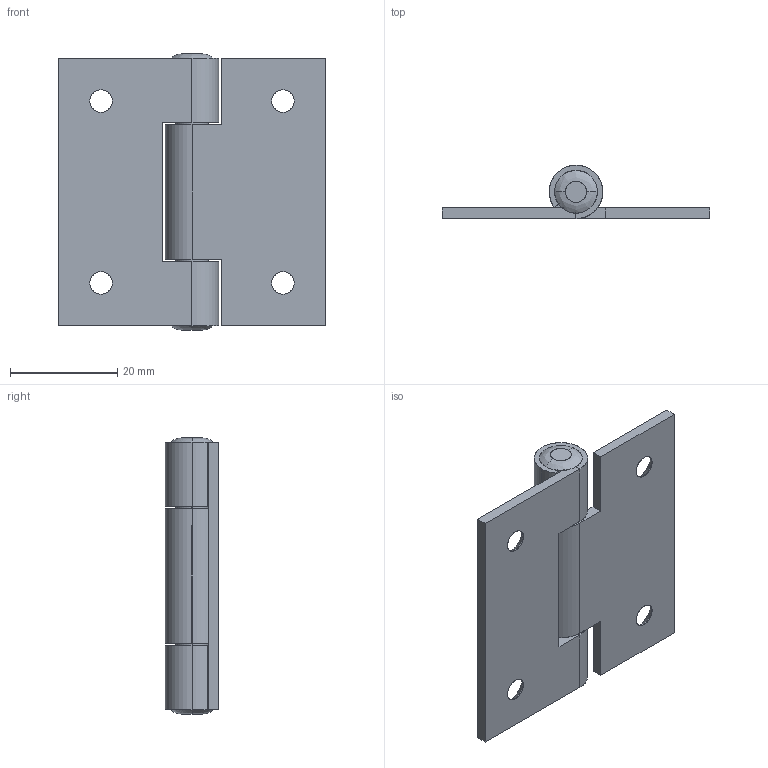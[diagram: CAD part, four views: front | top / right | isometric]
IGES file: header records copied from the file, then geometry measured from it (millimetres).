
Start section: SolidWorks IGES file using analytic representation for surfaces
Global section: file name: C:\Users\cbrechard\Desktop\31717 BIB.IGS; native system: SolidWorks 2017; preprocessor: SolidWorks 2017; author: cbrechard; date: 230206.101659; units: millimetre
Bounding box: 50 x 10 x 51.6 mm (x, y, z)
Surface area: 8469.4 mm2 (no closed solid volume)
Topology: 0 solids, 0 shells, 70 faces, 1068 edges, 1068 vertices
Faces by surface type: revolution 36, bspline 34
